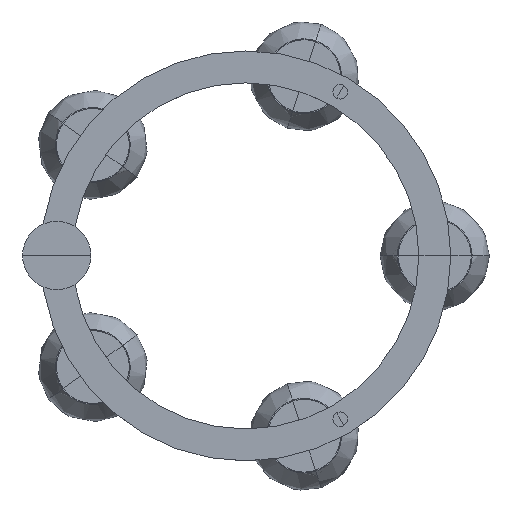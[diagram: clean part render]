
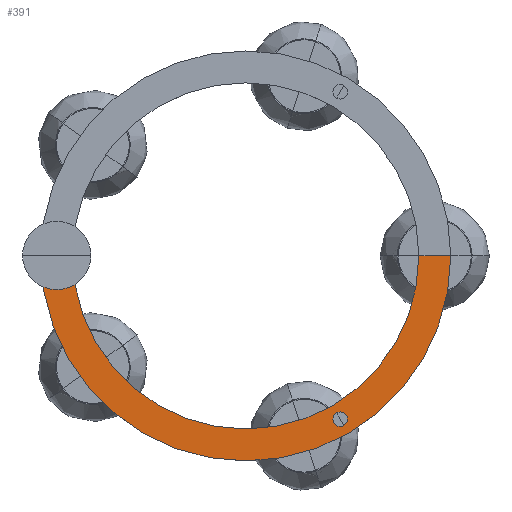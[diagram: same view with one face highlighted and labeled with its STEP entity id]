
A CAD part, top view. The second image highlights one B-rep face of the part: STEP entity #391.
In plain terms, the highlighted planar face has unit normal (0, 0, 1).
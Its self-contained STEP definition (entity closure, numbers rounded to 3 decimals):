
#97=B_SPLINE_CURVE_WITH_KNOTS('',1,(#4207,#4208),.UNSPECIFIED.,.F.,.F.,
(2,2),(0.,25.),.UNSPECIFIED.);
#102=B_SPLINE_CURVE_WITH_KNOTS('',1,(#4232,#4233),.UNSPECIFIED.,.F.,.F.,
(2,2),(0.,25.),.UNSPECIFIED.);
#191=PLANE('',#2413);
#391=ADVANCED_FACE('',(#551),#191,.T.);
#551=FACE_OUTER_BOUND('',#711,.T.);
#711=EDGE_LOOP('',(#1194,#1195,#1196,#1197));
#1194=ORIENTED_EDGE('',*,*,#1515,.T.);
#1195=ORIENTED_EDGE('',*,*,#1516,.T.);
#1196=ORIENTED_EDGE('',*,*,#1505,.F.);
#1197=ORIENTED_EDGE('',*,*,#1513,.F.);
#1505=EDGE_CURVE('',#1984,#1987,#97,.T.);
#1513=EDGE_CURVE('',#1989,#1984,#1696,.T.);
#1515=EDGE_CURVE('',#1989,#1990,#102,.T.);
#1516=EDGE_CURVE('',#1990,#1987,#1698,.T.);
#1696=TRIMMED_CURVE($,#1836,(#4227),(#4228),.T.,.CARTESIAN.);
#1698=TRIMMED_CURVE($,#1838,(#4235),(#4236),.T.,.CARTESIAN.);
#1836=CIRCLE('',#2420,225.);
#1838=CIRCLE('',#2422,190.);
#1984=VERTEX_POINT('',#4196);
#1987=VERTEX_POINT('',#4199);
#1989=VERTEX_POINT('',#4201);
#1990=VERTEX_POINT('',#4202);
#2413=AXIS2_PLACEMENT_3D('',#4193,#2812,$);
#2420=AXIS2_PLACEMENT_3D($,#4226,#2823,#2824);
#2422=AXIS2_PLACEMENT_3D($,#4234,#2827,#2828);
#2812=DIRECTION('',(0.,0.,1.));
#2823=DIRECTION('',(0.,0.,-1.));
#2824=DIRECTION('',(1.,0.,0.));
#2827=DIRECTION('',(0.,0.,-1.));
#2828=DIRECTION('',(1.,0.,0.));
#4193=CARTESIAN_POINT('',(14521.936,30082.794,-74.639));
#4196=CARTESIAN_POINT('',(14071.936,30082.794,-74.639));
#4199=CARTESIAN_POINT('',(14106.936,30082.794,-74.639));
#4201=CARTESIAN_POINT('',(14521.936,30082.794,-74.639));
#4202=CARTESIAN_POINT('',(14486.936,30082.794,-74.639));
#4207=CARTESIAN_POINT('',(14071.936,30082.794,-74.639));
#4208=CARTESIAN_POINT('',(14106.936,30082.794,-74.639));
#4226=CARTESIAN_POINT('',(14296.936,30082.794,-74.639));
#4227=CARTESIAN_POINT('',(14521.936,30082.794,-74.639));
#4228=CARTESIAN_POINT('',(14071.936,30082.794,-74.639));
#4232=CARTESIAN_POINT('',(14521.936,30082.794,-74.639));
#4233=CARTESIAN_POINT('',(14486.936,30082.794,-74.639));
#4234=CARTESIAN_POINT('',(14296.936,30082.794,-74.639));
#4235=CARTESIAN_POINT('',(14486.936,30082.794,-74.639));
#4236=CARTESIAN_POINT('',(14106.936,30082.794,-74.639));
